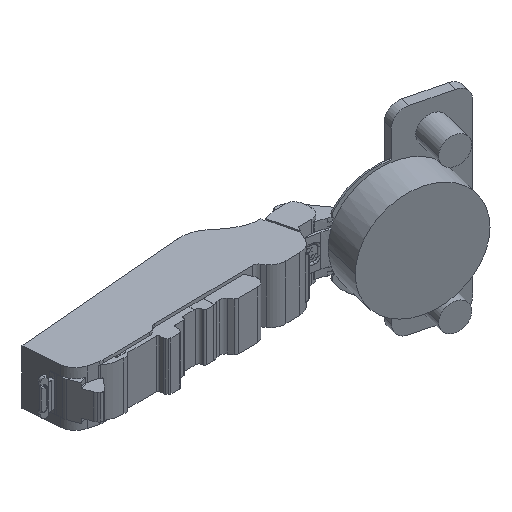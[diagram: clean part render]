
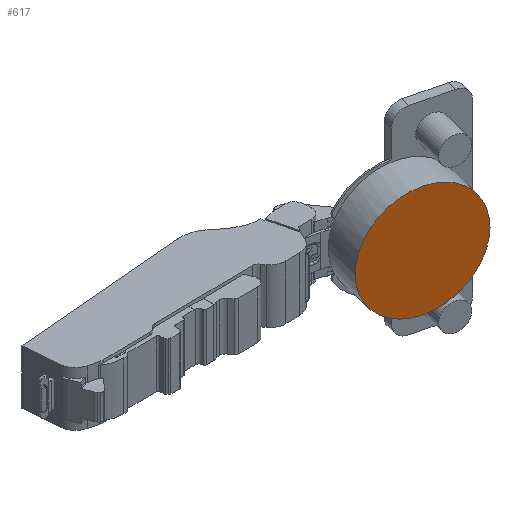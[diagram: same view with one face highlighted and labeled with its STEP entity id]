
A CAD part, isometric view. The second image highlights one B-rep face of the part: STEP entity #617.
In plain terms, the highlighted planar face has unit normal (-0.238, -0.971, 0).
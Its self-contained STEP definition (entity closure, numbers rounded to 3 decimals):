
#617 = ADVANCED_FACE ( 'NONE', ( #9230 ), #8193, .F. ) ;
#1249 = CARTESIAN_POINT ( 'NONE',  ( 6.689, -2.103, 0. ) ) ;
#2471 = AXIS2_PLACEMENT_3D ( 'NONE', #12372, #4120, #8262 ) ;
#3145 = EDGE_CURVE ( 'NONE', #9600, #7227, #12310, .T. ) ;
#3989 = ORIENTED_EDGE ( 'NONE', *, *, #3145, .T. ) ;
#4120 = DIRECTION ( 'NONE',  ( 0.238, 0.971, 0. ) ) ;
#4126 = DIRECTION ( 'NONE',  ( -0.238, -0.971, 0. ) ) ;
#4398 = CARTESIAN_POINT ( 'NONE',  ( 40.49, -10.391, 0. ) ) ;
#6025 = CARTESIAN_POINT ( 'NONE',  ( 23.589, -6.247, 0. ) ) ;
#6622 = EDGE_LOOP ( 'NONE', ( #3989, #13403 ) ) ;
#7038 = EDGE_CURVE ( 'NONE', #7227, #9600, #7077, .T. ) ;
#7077 = CIRCLE ( 'NONE', #11678, 17.401 ) ;
#7227 = VERTEX_POINT ( 'NONE', #4398 ) ;
#8193 = PLANE ( 'NONE',  #2471 ) ;
#8262 = DIRECTION ( 'NONE',  ( 0., 0., -1. ) ) ;
#8270 = DIRECTION ( 'NONE',  ( 0.971, -0.238, 0. ) ) ;
#8380 = AXIS2_PLACEMENT_3D ( 'NONE', #10414, #4126, #8270 ) ;
#9230 = FACE_OUTER_BOUND ( 'NONE', #6622, .T. ) ;
#9600 = VERTEX_POINT ( 'NONE', #1249 ) ;
#10196 = DIRECTION ( 'NONE',  ( 0.971, -0.238, 0. ) ) ;
#10414 = CARTESIAN_POINT ( 'NONE',  ( 23.589, -6.247, 0. ) ) ;
#11678 = AXIS2_PLACEMENT_3D ( 'NONE', #6025, #13312, #10196 ) ;
#12310 = CIRCLE ( 'NONE', #8380, 17.401 ) ;
#12372 = CARTESIAN_POINT ( 'NONE',  ( 35.535, -9.177, -5.564 ) ) ;
#13312 = DIRECTION ( 'NONE',  ( -0.238, -0.971, 0. ) ) ;
#13403 = ORIENTED_EDGE ( 'NONE', *, *, #7038, .T. ) ;
